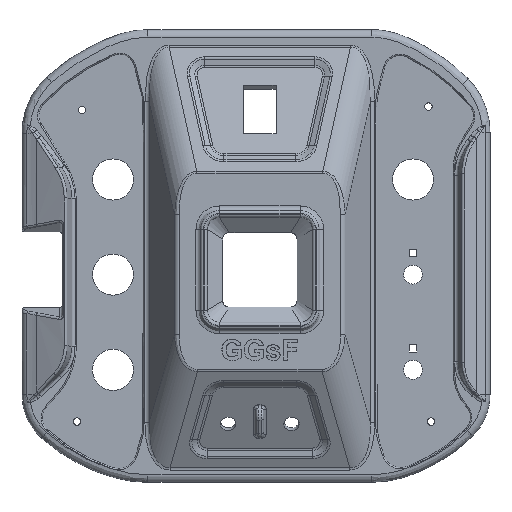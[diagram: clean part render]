
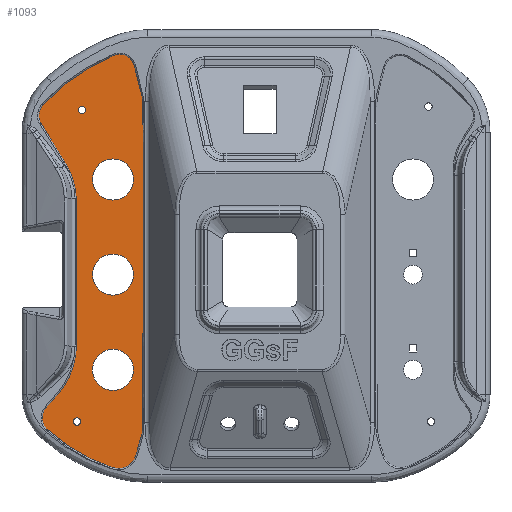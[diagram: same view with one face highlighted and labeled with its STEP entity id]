
A CAD part, top view. The second image highlights one B-rep face of the part: STEP entity #1093.
In plain terms, the highlighted planar face has unit normal (0, 0, 1).
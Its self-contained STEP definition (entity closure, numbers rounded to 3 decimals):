
#1093=ADVANCED_FACE('',(#2854,#2855,#2856,#2857,#2858,#2859),#1712,.F.);
#1712=PLANE('',#10569);
#1925=B_SPLINE_CURVE_WITH_KNOTS('',3,(#14409,#14410,#14411,#14412,#14413,
#14414),.UNSPECIFIED.,.F.,.F.,(4,2,4),(0.,0.5,1.),.UNSPECIFIED.);
#1926=B_SPLINE_CURVE_WITH_KNOTS('',3,(#14418,#14419,#14420,#14421,#14422,
#14423,#14424,#14425,#14426,#14427,#14428,#14429,#14430,#14431,#14432,#14433,
#14434),.UNSPECIFIED.,.F.,.F.,(4,2,2,1,1,1,2,2,2,4),(0.,0.062,
0.125,0.25,0.5,0.75,0.875,0.906,0.938,
1.),.UNSPECIFIED.);
#1927=B_SPLINE_CURVE_WITH_KNOTS('',3,(#14438,#14439,#14440,#14441,#14442,
#14443,#14444,#14445),.UNSPECIFIED.,.F.,.F.,(4,2,2,4),(0.,0.25,0.5,
1.),.UNSPECIFIED.);
#2421=CIRCLE('',#10558,1.45);
#2422=CIRCLE('',#10559,1.45);
#2423=CIRCLE('',#10560,29.9);
#2424=CIRCLE('',#10561,29.9);
#2425=CIRCLE('',#10562,6.1);
#2426=CIRCLE('',#10563,7.1);
#2427=CIRCLE('',#10564,6.1);
#2428=CIRCLE('',#10565,6.1);
#2429=CIRCLE('',#10566,8.1);
#2430=CIRCLE('',#10567,8.1);
#2431=CIRCLE('',#10568,8.1);
#2854=FACE_BOUND('',#2967,.T.);
#2855=FACE_BOUND('',#2968,.T.);
#2856=FACE_BOUND('',#2969,.T.);
#2857=FACE_BOUND('',#2970,.T.);
#2858=FACE_BOUND('',#2971,.T.);
#2859=FACE_BOUND('',#2972,.T.);
#2967=EDGE_LOOP('',(#3720));
#2968=EDGE_LOOP('',(#3721));
#2969=EDGE_LOOP('',(#3722,#3723,#3724,#3725,#3726,#3727,#3728,#3729,#3730,
#3731,#3732,#3733));
#2970=EDGE_LOOP('',(#3734));
#2971=EDGE_LOOP('',(#3735));
#2972=EDGE_LOOP('',(#3736));
#3720=ORIENTED_EDGE('',*,*,#7728,.F.);
#3721=ORIENTED_EDGE('',*,*,#7729,.T.);
#3722=ORIENTED_EDGE('',*,*,#7730,.T.);
#3723=ORIENTED_EDGE('',*,*,#7731,.F.);
#3724=ORIENTED_EDGE('',*,*,#7732,.T.);
#3725=ORIENTED_EDGE('',*,*,#7733,.F.);
#3726=ORIENTED_EDGE('',*,*,#7734,.T.);
#3727=ORIENTED_EDGE('',*,*,#7735,.F.);
#3728=ORIENTED_EDGE('',*,*,#7736,.T.);
#3729=ORIENTED_EDGE('',*,*,#7737,.F.);
#3730=ORIENTED_EDGE('',*,*,#7738,.T.);
#3731=ORIENTED_EDGE('',*,*,#7739,.F.);
#3732=ORIENTED_EDGE('',*,*,#7740,.T.);
#3733=ORIENTED_EDGE('',*,*,#7741,.F.);
#3734=ORIENTED_EDGE('',*,*,#7742,.T.);
#3735=ORIENTED_EDGE('',*,*,#7743,.T.);
#3736=ORIENTED_EDGE('',*,*,#7744,.F.);
#6776=VERTEX_POINT('',#14393);
#6777=VERTEX_POINT('',#14395);
#6778=VERTEX_POINT('',#14397);
#6779=VERTEX_POINT('',#14398);
#6780=VERTEX_POINT('',#14400);
#6781=VERTEX_POINT('',#14402);
#6782=VERTEX_POINT('',#14404);
#6783=VERTEX_POINT('',#14406);
#6784=VERTEX_POINT('',#14408);
#6785=VERTEX_POINT('',#14415);
#6786=VERTEX_POINT('',#14417);
#6787=VERTEX_POINT('',#14435);
#6788=VERTEX_POINT('',#14437);
#6789=VERTEX_POINT('',#14446);
#6790=VERTEX_POINT('',#14449);
#6791=VERTEX_POINT('',#14451);
#6792=VERTEX_POINT('',#14453);
#7728=EDGE_CURVE('',#6776,#6776,#2421,.T.);
#7729=EDGE_CURVE('',#6777,#6777,#2422,.T.);
#7730=EDGE_CURVE('',#6778,#6779,#9204,.T.);
#7731=EDGE_CURVE('',#6780,#6779,#2423,.T.);
#7732=EDGE_CURVE('',#6780,#6781,#9205,.T.);
#7733=EDGE_CURVE('',#6782,#6781,#2424,.T.);
#7734=EDGE_CURVE('',#6782,#6783,#9206,.T.);
#7735=EDGE_CURVE('',#6784,#6783,#2425,.T.);
#7736=EDGE_CURVE('',#6784,#6785,#1925,.T.);
#7737=EDGE_CURVE('',#6786,#6785,#2426,.T.);
#7738=EDGE_CURVE('',#6786,#6787,#1926,.T.);
#7739=EDGE_CURVE('',#6788,#6787,#2427,.T.);
#7740=EDGE_CURVE('',#6788,#6789,#1927,.T.);
#7741=EDGE_CURVE('',#6778,#6789,#2428,.T.);
#7742=EDGE_CURVE('',#6790,#6790,#2429,.T.);
#7743=EDGE_CURVE('',#6791,#6791,#2430,.T.);
#7744=EDGE_CURVE('',#6792,#6792,#2431,.T.);
#9204=LINE('',#14396,#9860);
#9205=LINE('',#14401,#9861);
#9206=LINE('',#14405,#9862);
#9860=VECTOR('',#11613,1.);
#9861=VECTOR('',#11616,1.);
#9862=VECTOR('',#11619,1.);
#10558=AXIS2_PLACEMENT_3D('',#14392,#11609,#11610);
#10559=AXIS2_PLACEMENT_3D('',#14394,#11611,#11612);
#10560=AXIS2_PLACEMENT_3D('',#14399,#11614,#11615);
#10561=AXIS2_PLACEMENT_3D('',#14403,#11617,#11618);
#10562=AXIS2_PLACEMENT_3D('',#14407,#11620,#11621);
#10563=AXIS2_PLACEMENT_3D('',#14416,#11622,#11623);
#10564=AXIS2_PLACEMENT_3D('',#14436,#11624,#11625);
#10565=AXIS2_PLACEMENT_3D('',#14447,#11626,#11627);
#10566=AXIS2_PLACEMENT_3D('',#14448,#11628,#11629);
#10567=AXIS2_PLACEMENT_3D('',#14450,#11630,#11631);
#10568=AXIS2_PLACEMENT_3D('',#14452,#11632,#11633);
#10569=AXIS2_PLACEMENT_3D('',#14454,#11634,#11635);
#11609=DIRECTION('',(0.,0.,1.));
#11610=DIRECTION('',(-1.,0.,0.));
#11611=DIRECTION('',(0.,0.,-1.));
#11612=DIRECTION('',(-1.,0.,0.));
#11613=DIRECTION('',(0.527,-0.85,0.));
#11614=DIRECTION('',(0.,0.,1.));
#11615=DIRECTION('',(-1.,0.,0.));
#11616=DIRECTION('',(0.,-1.,0.));
#11617=DIRECTION('',(0.,0.,1.));
#11618=DIRECTION('',(-1.,0.,0.));
#11619=DIRECTION('',(-0.657,-0.754,0.));
#11620=DIRECTION('',(0.,0.,-1.));
#11621=DIRECTION('',(-1.,0.,0.));
#11622=DIRECTION('',(0.,0.,-1.));
#11623=DIRECTION('',(-1.,0.,0.));
#11624=DIRECTION('',(0.,0.,-1.));
#11625=DIRECTION('',(-1.,0.,0.));
#11626=DIRECTION('',(0.,0.,-1.));
#11627=DIRECTION('',(-1.,0.,0.));
#11628=DIRECTION('',(0.,0.,-1.));
#11629=DIRECTION('',(-1.,0.,0.));
#11630=DIRECTION('',(0.,0.,-1.));
#11631=DIRECTION('',(-1.,0.,0.));
#11632=DIRECTION('',(0.,0.,1.));
#11633=DIRECTION('',(-1.,0.,0.));
#11634=DIRECTION('',(0.,0.,-1.));
#11635=DIRECTION('',(-1.,0.,0.));
#14392=CARTESIAN_POINT('',(17.738,7.096,37.238));
#14393=CARTESIAN_POINT('',(16.288,7.096,37.238));
#14394=CARTESIAN_POINT('',(19.683,129.92,37.238));
#14395=CARTESIAN_POINT('',(18.233,129.92,37.238));
#14396=CARTESIAN_POINT('',(1.367,128.059,37.238));
#14397=CARTESIAN_POINT('',(3.624,124.419,37.238));
#14398=CARTESIAN_POINT('',(12.999,109.3,37.238));
#14399=CARTESIAN_POINT('',(-12.412,93.542,37.238));
#14400=CARTESIAN_POINT('',(17.488,93.542,37.238));
#14401=CARTESIAN_POINT('',(17.488,102.089,37.238));
#14402=CARTESIAN_POINT('',(17.488,37.381,37.238));
#14403=CARTESIAN_POINT('',(-12.412,37.381,37.238));
#14404=CARTESIAN_POINT('',(10.122,17.727,37.238));
#14405=CARTESIAN_POINT('',(17.513,26.201,37.238));
#14406=CARTESIAN_POINT('',(5.582,12.522,37.238));
#14407=CARTESIAN_POINT('',(10.179,8.513,37.238));
#14408=CARTESIAN_POINT('',(5.995,4.074,37.238));
#14409=CARTESIAN_POINT('',(5.995,4.074,37.238));
#14410=CARTESIAN_POINT('',(9.691,0.59,37.238));
#14411=CARTESIAN_POINT('',(13.788,-2.457,37.238));
#14412=CARTESIAN_POINT('',(22.541,-7.475,37.238));
#14413=CARTESIAN_POINT('',(27.118,-9.563,37.238));
#14414=CARTESIAN_POINT('',(31.969,-11.078,37.238));
#14415=CARTESIAN_POINT('',(31.969,-11.078,37.238));
#14416=CARTESIAN_POINT('',(34.085,-4.3,37.238));
#14417=CARTESIAN_POINT('',(40.824,-6.535,37.238));
#14418=CARTESIAN_POINT('',(40.824,-6.535,37.238));
#14419=CARTESIAN_POINT('',(41.855,-3.426,37.238));
#14420=CARTESIAN_POINT('',(42.973,-0.326,37.238));
#14421=CARTESIAN_POINT('',(43.938,6.005,37.238));
#14422=CARTESIAN_POINT('',(43.818,9.231,37.238));
#14423=CARTESIAN_POINT('',(43.818,18.875,37.238));
#14424=CARTESIAN_POINT('',(43.818,38.162,37.238));
#14425=CARTESIAN_POINT('',(43.818,70.308,37.238));
#14426=CARTESIAN_POINT('',(43.818,102.454,37.238));
#14427=CARTESIAN_POINT('',(43.818,121.741,37.238));
#14428=CARTESIAN_POINT('',(43.818,129.778,37.238));
#14429=CARTESIAN_POINT('',(43.834,131.386,37.238));
#14430=CARTESIAN_POINT('',(43.544,134.584,37.238));
#14431=CARTESIAN_POINT('',(43.278,136.177,37.238));
#14432=CARTESIAN_POINT('',(42.097,140.933,37.238));
#14433=CARTESIAN_POINT('',(41.217,144.099,37.238));
#14434=CARTESIAN_POINT('',(40.381,147.268,37.238));
#14435=CARTESIAN_POINT('',(40.381,147.268,37.238));
#14436=CARTESIAN_POINT('',(34.483,145.712,37.238));
#14437=CARTESIAN_POINT('',(32.181,151.361,37.238));
#14438=CARTESIAN_POINT('',(32.181,151.361,37.238));
#14439=CARTESIAN_POINT('',(29.5,150.269,37.238));
#14440=CARTESIAN_POINT('',(26.925,148.97,37.238));
#14441=CARTESIAN_POINT('',(21.888,146.16,37.238));
#14442=CARTESIAN_POINT('',(19.397,144.675,37.238));
#14443=CARTESIAN_POINT('',(12.3,139.802,37.238));
#14444=CARTESIAN_POINT('',(8.028,136.004,37.238));
#14445=CARTESIAN_POINT('',(4.218,131.651,37.238));
#14446=CARTESIAN_POINT('',(4.218,131.651,37.238));
#14447=CARTESIAN_POINT('',(8.808,127.634,37.238));
#14448=CARTESIAN_POINT('',(31.938,27.5,37.238));
#14449=CARTESIAN_POINT('',(23.838,27.5,37.238));
#14450=CARTESIAN_POINT('',(31.938,65.,37.238));
#14451=CARTESIAN_POINT('',(23.838,65.,37.238));
#14452=CARTESIAN_POINT('',(31.938,102.5,37.238));
#14453=CARTESIAN_POINT('',(23.838,102.5,37.238));
#14454=CARTESIAN_POINT('',(43.718,70.321,37.238));
